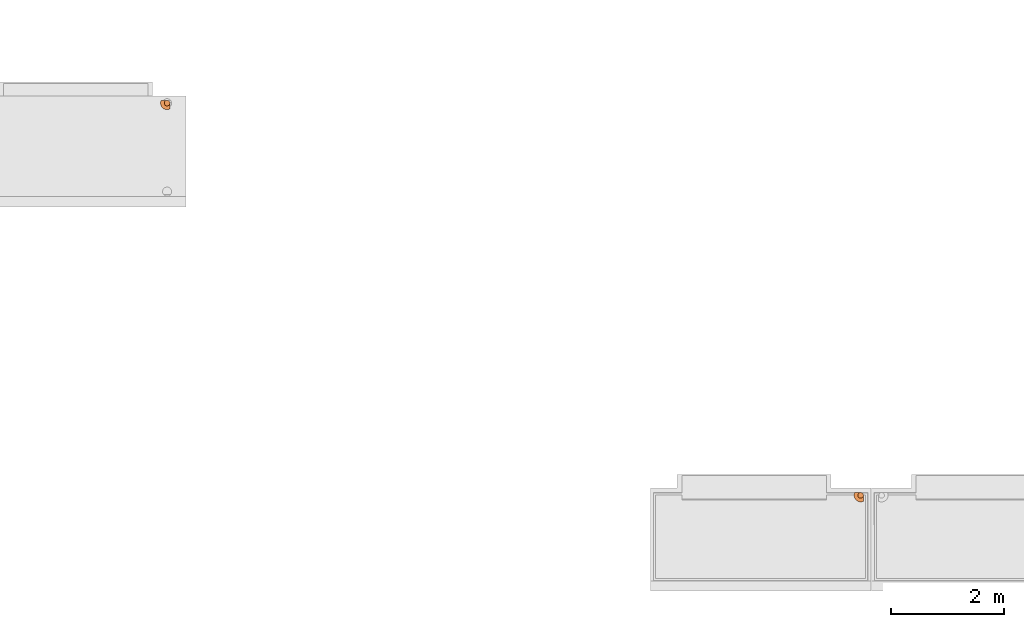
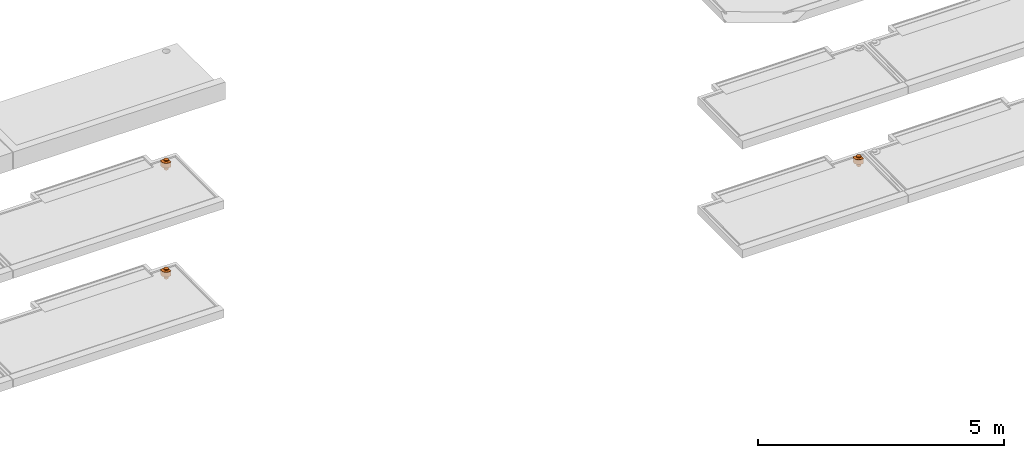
# One storey, part 24 of 31: 3 proxies, 3 elements without a shape of their own.
"""IFC2X3 building model written with IfcOpenShell, lengths in centimetres."""

import ifcopenshell
import ifcopenshell.guid

model = None  # the IFC model being written
_history = None  # IfcOwnerHistory: only IFC2X3 demands one
_inside = {}  # id of a spatial element -> (the spatial element, [elements in it])
_under = {}  # id of a project, library or spatial element -> (it, [spatial elements below it])
_declared = {}  # id of a project -> (the project, [libraries it declares])
_typed = {}  # id of a type object -> (the type object, [elements of that type])
_made_of = {}  # id of a material, layer set ... -> (it, [elements and type objects made of it])


def new_model(schema):
    """Start an empty IFC model of exactly this schema.

    Asked for "IFC4X3", IfcOpenShell would pick the latest addendum, in which some entities
    have other attributes; the version numbers below select the first issue.
    IFC2X3 requires an IfcOwnerHistory on every rooted entity: one is made here for all.
    """
    global model, _history
    if schema == "IFC4X3":
        model = ifcopenshell.file(schema_version=(4, 3, 0, 0))
    else:
        model = ifcopenshell.file(schema=schema)
    _inside.clear()
    _under.clear()
    _declared.clear()
    _typed.clear()
    _made_of.clear()
    _history = None
    if model.schema == "IFC2X3":
        org = make("IfcOrganization", Name="unknown")
        user = make(
            "IfcPersonAndOrganization",
            ThePerson=make("IfcPerson", FamilyName="unknown"),
            TheOrganization=org,
        )
        app = make(
            "IfcApplication",
            ApplicationDeveloper=org,
            Version="unknown",
            ApplicationFullName="unknown",
            ApplicationIdentifier="unknown",
        )
        _history = make(
            "IfcOwnerHistory",
            OwningUser=user,
            OwningApplication=app,
            ChangeAction="ADDED",
            CreationDate=0,
        )
    return model


def make(cls, **values):
    """One entity of the class cls with the attributes given. An attribute that is None is left unset."""
    return model.create_entity(
        cls, **{name: value for name, value in values.items() if value is not None}
    )


def entity(cls, *values):
    """Any entity or typed value of the class cls, its attributes in the order of the schema. None: left unset."""
    e = model.create_entity(cls)
    for i, value in enumerate(values):
        if value is not None:
            e[i] = value
    return e


def rooted(cls, **values):
    """An entity with a GlobalId (a new one), such as an element, a storey or a relation."""
    return make(cls, GlobalId=ifcopenshell.guid.new(), OwnerHistory=_history, **values)


def si_unit(unit_type, name, prefix=None):
    """IfcSIUnit, for example si_unit("LENGTHUNIT", "METRE", prefix="MILLI")."""
    return make("IfcSIUnit", UnitType=unit_type, Prefix=prefix, Name=name)


def converted_unit(unit_type, name, factor, base, dimensions=None, offset=None):
    """IfcConversionBasedUnit, such as the inch: factor (a typed value) times the base unit."""
    return make(
        "IfcConversionBasedUnit"
        if offset is None
        else "IfcConversionBasedUnitWithOffset",
        ConversionOffset=offset,
        Dimensions=None
        if dimensions is None
        else entity("IfcDimensionalExponents", *dimensions),
        UnitType=unit_type,
        Name=name,
        ConversionFactor=make(
            "IfcMeasureWithUnit", ValueComponent=factor, UnitComponent=base
        ),
    )


def derived_unit(unit_type, elements):
    """IfcDerivedUnit: a product of units, each with its exponent."""
    return make(
        "IfcDerivedUnit",
        Elements=[
            make("IfcDerivedUnitElement", Unit=unit, Exponent=power)
            for unit, power in elements
        ],
        UnitType=unit_type,
    )


def assignment(units):
    """IfcUnitAssignment: the units of a project."""
    return None if units is None else make("IfcUnitAssignment", Units=units)


def point(xyz):
    """IfcCartesianPoint."""
    return None if xyz is None else make("IfcCartesianPoint", Coordinates=xyz)


def direction(xyz):
    """IfcDirection."""
    return None if xyz is None else make("IfcDirection", DirectionRatios=xyz)


def frame(location, z_axis=None, x_axis=None):
    """IfcAxis2Placement3D, a coordinate frame: its origin and axes. An axis left out is left unset."""
    return make(
        "IfcAxis2Placement3D",
        Location=point(location),
        Axis=direction(z_axis),
        RefDirection=direction(x_axis),
    )


def origin():
    """The frame at (0, 0, 0) with its axes left unset."""
    return frame((0.0, 0.0, 0.0))


def place(relative_to, where):
    """IfcLocalPlacement: puts the frame where relative to a parent placement (None: the world)."""
    return make(
        "IfcLocalPlacement", PlacementRelTo=relative_to, RelativePlacement=where
    )


def context(
    kind, dimensions, precision=None, world=None, true_north=None, identifier=None
):
    """IfcGeometricRepresentationContext, for example the 3D "Model" context."""
    return make(
        "IfcGeometricRepresentationContext",
        ContextIdentifier=identifier,
        ContextType=kind,
        CoordinateSpaceDimension=dimensions,
        Precision=precision,
        WorldCoordinateSystem=world,
        TrueNorth=true_north,
    )


def subcontext(parent, identifier, kind, view, scale=None):
    """IfcGeometricRepresentationSubContext, for example "Body" below "Model"."""
    return make(
        "IfcGeometricRepresentationSubContext",
        ContextIdentifier=identifier,
        ContextType=kind,
        ParentContext=parent,
        TargetScale=scale,
        TargetView=view,
    )


def project(units=None, contexts=None):
    """IfcProject with its units and contexts."""
    return rooted(
        "IfcProject",
        Name="project",
        RepresentationContexts=contexts,
        UnitsInContext=assignment(units),
    )


def spatial(cls, under=None, at=None, **own):
    """A site, building, storey or space (cls), placed at a placement, below another one or the project."""
    s = rooted(cls, ObjectPlacement=at, **own)
    if under is not None:
        _under.setdefault(under.id(), (under, []))[1].append(s)
    return s


def faces_of(points, faces, orient=None, outer=None):
    """IfcFace entities. A face is a list of loops; a loop is a list of indices into points, from 0.

    orient and outer hold one flag for each loop. By default every Orientation is true, the
    first loop of a face is its IfcFaceOuterBound and the others are IfcFaceBound.
    """
    made = []
    for i, loops in enumerate(faces):
        bounds = []
        for j, loop in enumerate(loops):
            is_outer = j == 0 if outer is None else outer[i][j]
            bounds.append(
                make(
                    "IfcFaceOuterBound" if is_outer else "IfcFaceBound",
                    Bound=make("IfcPolyLoop", Polygon=[points[k] for k in loop]),
                    Orientation=True if orient is None else orient[i][j],
                )
            )
        made.append(make("IfcFace", Bounds=bounds))
    return made


def faceted_brep(points, faces, orient=None, outer=None, voids=None):
    """IfcFacetedBrep: a solid bounded by flat faces; with voids (closed shells), ...WithVoids."""
    shared = [point(p) for p in points]
    hull = make("IfcClosedShell", CfsFaces=faces_of(shared, faces, orient, outer))
    if voids is None:
        return make("IfcFacetedBrep", Outer=hull)
    return make(
        "IfcFacetedBrepWithVoids",
        Outer=hull,
        Voids=[
            make(cls, CfsFaces=faces_of(shared, fs, o, b)) for cls, fs, o, b in voids
        ],
    )


def shape(context_of_items, identifier, shape_type, items):
    """IfcShapeRepresentation: the items that make up one representation, for example the "Body"."""
    return make(
        "IfcShapeRepresentation",
        ContextOfItems=context_of_items,
        RepresentationIdentifier=identifier,
        RepresentationType=shape_type,
        Items=items,
    )


def source(mapping_origin, context_of_items, identifier, shape_type, items):
    """IfcRepresentationMap: a shape defined once, which mapped items show again and again."""
    return make(
        "IfcRepresentationMap",
        MappingOrigin=mapping_origin,
        MappedRepresentation=shape(context_of_items, identifier, shape_type, items),
    )


def transform(
    local_origin,
    x_axis=None,
    y_axis=None,
    z_axis=None,
    scale=None,
    scale2=None,
    scale3=None,
    uniform=True,
):
    """IfcCartesianTransformationOperator3D, or its non-uniform kind. x_axis, y_axis, z_axis: its Axis1, 2, 3."""
    if uniform:
        return make(
            "IfcCartesianTransformationOperator3D",
            Axis1=direction(x_axis),
            Axis2=direction(y_axis),
            LocalOrigin=point(local_origin),
            Scale=scale,
            Axis3=direction(z_axis),
        )
    return make(
        "IfcCartesianTransformationOperator3DnonUniform",
        Axis1=direction(x_axis),
        Axis2=direction(y_axis),
        LocalOrigin=point(local_origin),
        Scale=scale,
        Axis3=direction(z_axis),
        Scale2=scale2,
        Scale3=scale3,
    )


def mapped(mapping_source, mapping_target):
    """IfcMappedItem: shows the shape of a source again, moved by a transform."""
    return make(
        "IfcMappedItem", MappingSource=mapping_source, MappingTarget=mapping_target
    )


def material(Name=None, Category=None):
    """IfcMaterial."""
    return make("IfcMaterial", Name=Name, Category=Category)


def made_of(thing, what):
    """Note that an element or type object is made of a material, layer set ...; save() writes the relation."""
    if what is not None:
        _made_of.setdefault(what.id(), (what, []))[1].append(thing)
    return thing


def type_object(cls, material=None, **own):
    """A type object (cls), such as IfcWallType, which elements share."""
    return made_of(rooted(cls, **own), material)


def type_shapes(of_type, sources):
    """Give a type object the sources (RepresentationMaps) that its elements show as mapped items."""
    of_type.RepresentationMaps = sources


def element(
    cls,
    number,
    at=None,
    inside=None,
    cuts=None,
    type_object=None,
    material=None,
    context=None,
    identifier="Body",
    shape_type=None,
    held_by="IfcProductDefinitionShape",
    body=None,
    shapes=None,
    **own,
):
    """One element of the class cls, such as IfcWall. Its Tag is "e" and its number.

    at: its placement. inside: the storey or other place that contains it. cuts: it is an
    opening in that element (IfcRelVoidsElement). A single representation is given by context,
    identifier, shape_type and body (its items); several are given by shapes. held_by: the class
    of the entity that holds the representations. save() writes the other relations.
    """
    e = rooted(cls, Tag="e%d" % number, ObjectPlacement=at, **own)
    if body is not None:
        shapes = [shape(context, identifier, shape_type, body)]
    if shapes is not None:
        e.Representation = make(held_by, Representations=shapes)
    if inside is not None:
        _inside.setdefault(inside.id(), (inside, []))[1].append(e)
    if cuts is not None:
        rooted(
            "IfcRelVoidsElement", RelatingBuildingElement=cuts, RelatedOpeningElement=e
        )
    if type_object is not None:
        _typed.setdefault(type_object.id(), (type_object, []))[1].append(e)
    return made_of(e, material)


def aggregate(whole, parts):
    """IfcRelAggregates: a whole, such as a stair, and the parts it consists of."""
    return rooted("IfcRelAggregates", RelatingObject=whole, RelatedObjects=parts)


def save(model, path):
    """Write the relations noted so far, then the file.

    IfcRelAggregates (storeys below a building ...), IfcRelContainedInSpatialStructure (elements
    in a storey), IfcRelDefinesByType, IfcRelAssociatesMaterial and IfcRelDeclares: one each for
    every whole, place, type object, material and project.
    """
    for whole, parts in _under.values():
        aggregate(whole, parts)
    for where, things in _inside.values():
        rooted(
            "IfcRelContainedInSpatialStructure",
            RelatedElements=things,
            RelatingStructure=where,
        )
    for kind, things in _typed.values():
        rooted("IfcRelDefinesByType", RelatedObjects=things, RelatingType=kind)
    for what, things in _made_of.values():
        rooted("IfcRelAssociatesMaterial", RelatedObjects=things, RelatingMaterial=what)
    for by, libraries in _declared.values():
        rooted("IfcRelDeclares", RelatingContext=by, RelatedDefinitions=libraries)
    model.write(path)


model = new_model("IFC2X3")

# Units and contexts
model_context = context("Model", 3, precision=0.001, world=origin(), true_north=direction((6.12303176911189e-17, 1.0)))
body_context = subcontext(model_context, "Body", "Model", "MODEL_VIEW")
ifc_project = project(units=[si_unit("LENGTHUNIT", "METRE", prefix="CENTI"), si_unit("AREAUNIT", "SQUARE_METRE"), si_unit("VOLUMEUNIT", "CUBIC_METRE"), converted_unit("PLANEANGLEUNIT", "DEGREE", entity("IfcRatioMeasure", 0.0174532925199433), si_unit("PLANEANGLEUNIT", "RADIAN"), dimensions=[0, 0, 0, 0, 0, 0, 0]), si_unit("MASSUNIT", "GRAM", prefix="KILO"), derived_unit("MASSDENSITYUNIT", [(si_unit("MASSUNIT", "GRAM", prefix="KILO"), 1), (si_unit("LENGTHUNIT", "METRE"), -3)]), si_unit("TIMEUNIT", "SECOND"), si_unit("FREQUENCYUNIT", "HERTZ"), si_unit("THERMODYNAMICTEMPERATUREUNIT", "DEGREE_CELSIUS"), derived_unit("THERMALTRANSMITTANCEUNIT", [(si_unit("MASSUNIT", "GRAM", prefix="KILO"), 1), (si_unit("THERMODYNAMICTEMPERATUREUNIT", "KELVIN"), -1), (si_unit("TIMEUNIT", "SECOND"), -3)]), derived_unit("VOLUMETRICFLOWRATEUNIT", [(si_unit("LENGTHUNIT", "METRE"), 3), (si_unit("TIMEUNIT", "SECOND"), -1)]), si_unit("ELECTRICCURRENTUNIT", "AMPERE"), si_unit("ELECTRICVOLTAGEUNIT", "VOLT"), si_unit("POWERUNIT", "WATT"), si_unit("FORCEUNIT", "NEWTON"), si_unit("ILLUMINANCEUNIT", "LUX"), si_unit("LUMINOUSFLUXUNIT", "LUMEN"), si_unit("LUMINOUSINTENSITYUNIT", "CANDELA"), derived_unit("USERDEFINED", [(si_unit("MASSUNIT", "GRAM", prefix="KILO"), -1), (si_unit("LENGTHUNIT", "METRE"), -2), (si_unit("TIMEUNIT", "SECOND"), 3), (si_unit("LUMINOUSFLUXUNIT", "LUMEN"), 1)]), derived_unit("LINEARVELOCITYUNIT", [(si_unit("LENGTHUNIT", "METRE"), 1), (si_unit("TIMEUNIT", "SECOND"), -1)]), si_unit("PRESSUREUNIT", "PASCAL"), derived_unit("USERDEFINED", [(si_unit("LENGTHUNIT", "METRE"), -2), (si_unit("MASSUNIT", "GRAM", prefix="KILO"), 1), (si_unit("TIMEUNIT", "SECOND"), -2)])], contexts=[model_context])

# Site, building, storey
site_placement = place(None, origin())
site = spatial("IfcSite", under=ifc_project, at=site_placement, Name="Default", CompositionType="ELEMENT")
building_placement = place(site_placement, origin())
building = spatial("IfcBuilding", under=site, at=building_placement, Name="CAGE 03", CompositionType="ELEMENT")
storey_placement = place(building_placement, frame((0.0, 0.0, -400.0)))
storey = spatial("IfcBuildingStorey", under=building, at=storey_placement, Name="±0.00", CompositionType="ELEMENT", Elevation=-400.0)

# Assembly, proxy
assembly_1_placement = place(storey_placement, origin())
assembly_1 = element("IfcElementAssembly", 1, at=assembly_1_placement, inside=storey, Name="Assemblage Modèles génériques:BALCON TYPE 02", ObjectType="Assemblage Modèles génériques:BALCON TYPE 02", AssemblyPlace="NOTDEFINED", PredefinedType="USERDEFINED")
ifc_material = material(Name="BBGO_Résa")
building_element_proxy_type_1 = type_object("IfcBuildingElementProxyType", Name="Siphon de balcon", PredefinedType="NOTDEFINED", material=ifc_material)
shared_shape_1 = source(origin(), body_context, "Body", "Brep", [
    faceted_brep([(6.68784336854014, 14.159527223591, 9.69999999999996), (6.68784336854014, 14.1595272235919, 0.0), (6.18834125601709, 12.9536224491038, 0.0), (6.18834125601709, 12.9536224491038, 9.69999999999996), (6.68784336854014, 14.1595272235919, 22.0), (6.18834125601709, 12.9536224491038, 22.0), (6.18834125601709, 12.9536224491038, 24.0), (6.68784336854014, 14.1595272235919, 24.0), (6.01797038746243, 11.6595272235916, 0.0), (6.01797038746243, 11.6595272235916, 9.69999999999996), (6.01797038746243, 11.6595272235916, 22.0), (6.01797038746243, 11.6595272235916, 24.0), (6.18834125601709, 10.3654319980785, 9.69999999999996), (6.18834125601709, 10.3654319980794, 0.0), (6.68784336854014, 9.15952722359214, 0.0), (6.68784336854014, 9.15952722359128, 9.69999999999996), (6.18834125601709, 10.3654319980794, 22.0), (6.68784336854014, 9.15952722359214, 22.0), (6.68784336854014, 9.15952722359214, 24.0), (6.18834125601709, 10.3654319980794, 24.0), (7.48243648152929, 8.12399331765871, 0.0), (7.48243648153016, 8.12399331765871, 9.69999999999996), (7.48243648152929, 8.12399331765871, 24.0), (7.48243648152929, 8.12399331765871, 22.0), (7.48243648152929, 15.1950611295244, 9.69999999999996), (7.48243648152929, 15.1950611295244, 0.0), (7.48243648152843, 15.1950611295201, 22.0), (7.48243648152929, 15.1950611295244, 24.0), (8.51797038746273, 7.32940020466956, 9.69999999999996), (8.51797038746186, 7.32940020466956, 0.0), (9.72387516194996, 6.82989809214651, 0.0), (9.72387516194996, 6.82989809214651, 9.69999999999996), (8.51797038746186, 7.32940020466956, 22.0), (9.72387516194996, 6.82989809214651, 22.0), (9.72387516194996, 6.82989809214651, 24.0), (8.51797038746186, 7.32940020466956, 24.0), (11.0179703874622, 6.65952722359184, 0.0), (11.0179703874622, 6.65952722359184, 9.69999999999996), (11.0179703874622, 6.65952722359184, 22.0), (11.0179703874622, 6.65952722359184, 24.0), (12.3120656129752, 6.82989809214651, 9.69999999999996), (12.3120656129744, 6.82989809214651, 0.0), (13.5179703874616, 7.32940020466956, 0.0), (13.5179703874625, 7.32940020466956, 9.69999999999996), (12.3120656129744, 6.82989809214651, 22.0), (13.5179703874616, 7.32940020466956, 22.0), (13.5179703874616, 7.32940020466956, 24.0), (12.3120656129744, 6.82989809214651, 24.0), (14.553504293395, 8.12399331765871, 0.0), (14.553504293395, 8.12399331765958, 9.69999999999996), (14.553504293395, 8.12399331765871, 22.0), (14.553504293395, 8.12399331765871, 24.0), (15.3480974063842, 14.1595272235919, 22.0), (15.8475995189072, 12.9536224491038, 22.0), (16.0179703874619, 11.6595272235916, 22.0), (15.8475995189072, 10.3654319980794, 22.0), (15.3480974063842, 9.15952722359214, 22.0), (0.15952722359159, 7.87215187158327, 22.0), (1.41532336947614, 5.33187598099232, 22.0), (3.25417812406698, 3.17580577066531, 22.0), (5.56443893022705, 1.5348546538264, 22.0), (8.20583014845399, 0.508658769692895, 22.0), (11.017970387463, 0.15952722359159, 22.0), (13.8301106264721, 0.508658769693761, 22.0), (16.4715018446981, 1.53485465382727, 22.0), (18.7817626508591, 3.17580577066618, 22.0), (20.620617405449, 5.33187598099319, 22.0), (21.8764135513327, 7.872151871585, 22.0), (14.553504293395, 15.1950611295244, 22.0), (15.3480974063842, 9.15952722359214, 9.69999999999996), (15.8475995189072, 10.3654319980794, 9.69999999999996), (16.0179703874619, 11.6595272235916, 9.69999999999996), (15.8475995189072, 12.9536224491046, 9.69999999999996), (15.3480974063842, 14.1595272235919, 9.69999999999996), (14.553504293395, 15.1950611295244, 9.69999999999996), (21.8764135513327, 7.872151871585, 9.69999999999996), (20.620617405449, 5.33187598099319, 9.69999999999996), (18.7817626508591, 3.17580577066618, 9.69999999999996), (16.4715018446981, 1.53485465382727, 9.69999999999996), (13.8301106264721, 0.508658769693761, 9.69999999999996), (11.017970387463, 0.15952722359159, 9.69999999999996), (8.20583014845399, 0.508658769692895, 9.69999999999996), (5.56443893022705, 1.5348546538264, 9.69999999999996), (3.25417812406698, 3.17580577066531, 9.69999999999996), (1.41532336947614, 5.33187598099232, 9.69999999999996), (0.15952722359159, 7.87215187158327, 9.69999999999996), (0.15952722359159, 7.87215187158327, 21.5299497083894), (21.8764135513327, 7.872151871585, 21.3763717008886), (15.3480974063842, 9.15952722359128, 24.0), (15.8475995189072, 10.3654319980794, 24.0), (16.0179703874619, 11.6595272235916, 24.0), (15.8475995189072, 12.9536224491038, 24.0), (15.3480974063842, 14.159527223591, 24.0), (14.553504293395, 15.1950611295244, 24.0), (13.5179703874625, 15.9896542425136, 24.0), (12.3120656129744, 16.4891563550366, 24.0), (11.0179703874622, 16.6595272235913, 24.0), (9.72387516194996, 16.4891563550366, 24.0), (8.51797038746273, 15.9896542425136, 24.0), (15.8475995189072, 10.3654319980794, 0.0), (15.3480974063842, 9.15952722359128, 0.0), (8.51797038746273, 15.9896542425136, 0.0), (9.72387516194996, 16.4891563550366, 0.0), (11.0179703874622, 16.6595272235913, 0.0), (12.3120656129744, 16.4891563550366, 0.0), (13.5179703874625, 15.9896542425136, 0.0), (14.553504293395, 15.1950611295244, 0.0), (15.3480974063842, 14.159527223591, 0.0), (15.8475995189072, 12.9536224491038, 0.0), (16.0179703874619, 11.6595272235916, 0.0)], [[[0, 1, 2, 3]], [[4, 5, 6, 7]], [[8, 9, 3, 2]], [[5, 10, 11, 6]], [[12, 13, 14, 15]], [[16, 17, 18, 19]], [[8, 13, 12, 9]], [[10, 16, 19, 11]], [[15, 14, 20, 21]], [[22, 18, 17, 23]], [[1, 0, 24, 25]], [[26, 4, 7, 27]], [[28, 29, 30, 31]], [[32, 33, 34, 35]], [[36, 37, 31, 30]], [[33, 38, 39, 34]], [[40, 41, 42, 43]], [[44, 45, 46, 47]], [[36, 41, 40, 37]], [[38, 44, 47, 39]], [[43, 42, 48, 49]], [[45, 50, 51, 46]], [[29, 28, 21, 20]], [[32, 35, 22, 23]], [[52, 53, 54, 55, 56, 50, 45, 44, 38, 33, 32, 23, 17, 16, 10, 5, 4, 26, 57, 58, 59, 60, 61, 62, 63, 64, 65, 66, 67, 68]], [[21, 28, 31, 37, 40, 43, 49, 69, 70, 71, 72, 73, 74, 75, 76, 77, 78, 79, 80, 81, 82, 83, 84, 85, 24, 0, 3, 9, 12, 15]], [[57, 26, 24, 85, 86]], [[86, 85, 84, 58, 57]], [[83, 59, 58, 84]], [[60, 82, 81, 61]], [[83, 82, 60, 59]], [[61, 81, 80, 62]], [[78, 64, 63, 79]], [[77, 65, 64, 78]], [[76, 75, 87, 67, 66]], [[77, 76, 66, 65]], [[79, 63, 62, 80]], [[68, 67, 87, 75, 74]], [[18, 22, 35, 34, 39, 47, 46, 51, 88, 89, 90, 91, 92, 93, 94, 95, 96, 97, 98, 27, 7, 6, 11, 19]], [[99, 100, 48, 42, 41, 36, 30, 29, 20, 14, 13, 8, 2, 1, 25, 101, 102, 103, 104, 105, 106, 107, 108, 109]], [[48, 100, 69, 49]], [[51, 50, 56, 88]], [[99, 70, 69, 100]], [[56, 55, 89, 88]], [[109, 108, 72, 71]], [[54, 53, 91, 90]], [[109, 71, 70, 99]], [[54, 90, 89, 55]], [[108, 107, 73, 72]], [[91, 53, 52, 92]], [[74, 106, 105, 94, 93, 68]], [[107, 106, 74, 73]], [[52, 68, 93, 92]], [[94, 105, 104, 95]], [[101, 25, 24, 26, 27, 98]], [[96, 103, 102, 97]], [[101, 98, 97, 102]], [[95, 104, 103, 96]]]),
])
type_shapes(building_element_proxy_type_1, [shared_shape_1])
proxy_1_placement = place(assembly_1_placement, frame((5823.33040780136, 4657.20701688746, 988.0), z_axis=(0.0, 0.0, 1.0), x_axis=(0.707106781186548, -0.707106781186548, 0.0)))
proxy_1 = element("IfcBuildingElementProxy", 2, at=proxy_1_placement, type_object=building_element_proxy_type_1, material=ifc_material, Name="Siphon de balcon1:Siphon de balcon", ObjectType="Siphon de balcon", context=body_context, shape_type="MappedRepresentation", body=[
    mapped(shared_shape_1, transform((0.0, 0.0, 0.0), scale=1.0)),
])
aggregate(assembly_1, [proxy_1])

assembly_2_placement = place(storey_placement, origin())
assembly_2 = element("IfcElementAssembly", 3, at=assembly_2_placement, inside=storey, Name="Assemblage Modèles génériques:BALCON TYPE 03", ObjectType="Assemblage Modèles génériques:BALCON TYPE 03", AssemblyPlace="NOTDEFINED", PredefinedType="USERDEFINED")
building_element_proxy_type_2 = type_object("IfcBuildingElementProxyType", Name="Siphon de balcon", PredefinedType="NOTDEFINED", material=ifc_material)
shared_shape_2 = source(origin(), body_context, "Body", "Brep", [
    faceted_brep([(6.68784336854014, 14.159527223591, 9.69999999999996), (6.68784336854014, 14.1595272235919, 0.0), (6.18834125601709, 12.9536224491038, 0.0), (6.18834125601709, 12.9536224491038, 9.69999999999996), (6.68784336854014, 14.1595272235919, 22.0), (6.18834125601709, 12.9536224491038, 22.0), (6.18834125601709, 12.9536224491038, 24.0), (6.68784336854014, 14.1595272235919, 24.0), (6.01797038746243, 11.6595272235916, 0.0), (6.01797038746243, 11.6595272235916, 9.69999999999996), (6.01797038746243, 11.6595272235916, 22.0), (6.01797038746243, 11.6595272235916, 24.0), (6.18834125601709, 10.3654319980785, 9.69999999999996), (6.18834125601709, 10.3654319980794, 0.0), (6.68784336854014, 9.15952722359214, 0.0), (6.68784336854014, 9.15952722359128, 9.69999999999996), (6.18834125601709, 10.3654319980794, 22.0), (6.68784336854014, 9.15952722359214, 22.0), (6.68784336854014, 9.15952722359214, 24.0), (6.18834125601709, 10.3654319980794, 24.0), (7.48243648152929, 8.12399331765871, 0.0), (7.48243648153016, 8.12399331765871, 9.69999999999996), (7.48243648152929, 8.12399331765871, 24.0), (7.48243648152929, 8.12399331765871, 22.0), (7.48243648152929, 15.1950611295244, 9.69999999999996), (7.48243648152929, 15.1950611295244, 0.0), (7.48243648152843, 15.1950611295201, 22.0), (7.48243648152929, 15.1950611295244, 24.0), (8.51797038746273, 7.32940020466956, 9.69999999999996), (8.51797038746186, 7.32940020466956, 0.0), (9.72387516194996, 6.82989809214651, 0.0), (9.72387516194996, 6.82989809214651, 9.69999999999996), (8.51797038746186, 7.32940020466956, 22.0), (9.72387516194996, 6.82989809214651, 22.0), (9.72387516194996, 6.82989809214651, 24.0), (8.51797038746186, 7.32940020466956, 24.0), (11.0179703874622, 6.65952722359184, 0.0), (11.0179703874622, 6.65952722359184, 9.69999999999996), (11.0179703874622, 6.65952722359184, 22.0), (11.0179703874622, 6.65952722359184, 24.0), (12.3120656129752, 6.82989809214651, 9.69999999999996), (12.3120656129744, 6.82989809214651, 0.0), (13.5179703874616, 7.32940020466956, 0.0), (13.5179703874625, 7.32940020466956, 9.69999999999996), (12.3120656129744, 6.82989809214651, 22.0), (13.5179703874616, 7.32940020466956, 22.0), (13.5179703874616, 7.32940020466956, 24.0), (12.3120656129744, 6.82989809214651, 24.0), (14.553504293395, 8.12399331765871, 0.0), (14.553504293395, 8.12399331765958, 9.69999999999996), (14.553504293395, 8.12399331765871, 22.0), (14.553504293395, 8.12399331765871, 24.0), (15.3480974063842, 14.1595272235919, 22.0), (15.8475995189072, 12.9536224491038, 22.0), (16.0179703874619, 11.6595272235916, 22.0), (15.8475995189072, 10.3654319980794, 22.0), (15.3480974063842, 9.15952722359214, 22.0), (0.15952722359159, 7.87215187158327, 22.0), (1.41532336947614, 5.33187598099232, 22.0), (3.25417812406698, 3.17580577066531, 22.0), (5.56443893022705, 1.5348546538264, 22.0), (8.20583014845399, 0.508658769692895, 22.0), (11.017970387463, 0.15952722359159, 22.0), (13.8301106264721, 0.508658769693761, 22.0), (16.4715018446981, 1.53485465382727, 22.0), (18.7817626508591, 3.17580577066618, 22.0), (20.620617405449, 5.33187598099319, 22.0), (21.8764135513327, 7.872151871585, 22.0), (14.553504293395, 15.1950611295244, 22.0), (15.3480974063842, 9.15952722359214, 9.69999999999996), (15.8475995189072, 10.3654319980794, 9.69999999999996), (16.0179703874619, 11.6595272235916, 9.69999999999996), (15.8475995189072, 12.9536224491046, 9.69999999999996), (15.3480974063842, 14.1595272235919, 9.69999999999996), (14.553504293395, 15.1950611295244, 9.69999999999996), (21.8764135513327, 7.872151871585, 9.69999999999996), (20.620617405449, 5.33187598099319, 9.69999999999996), (18.7817626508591, 3.17580577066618, 9.69999999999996), (16.4715018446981, 1.53485465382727, 9.69999999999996), (13.8301106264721, 0.508658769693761, 9.69999999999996), (11.017970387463, 0.15952722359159, 9.69999999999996), (8.20583014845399, 0.508658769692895, 9.69999999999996), (5.56443893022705, 1.5348546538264, 9.69999999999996), (3.25417812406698, 3.17580577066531, 9.69999999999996), (1.41532336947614, 5.33187598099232, 9.69999999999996), (0.15952722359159, 7.87215187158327, 9.69999999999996), (0.15952722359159, 7.87215187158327, 21.5299497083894), (21.8764135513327, 7.872151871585, 21.3763717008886), (15.3480974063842, 9.15952722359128, 24.0), (15.8475995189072, 10.3654319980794, 24.0), (16.0179703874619, 11.6595272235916, 24.0), (15.8475995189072, 12.9536224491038, 24.0), (15.3480974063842, 14.159527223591, 24.0), (14.553504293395, 15.1950611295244, 24.0), (13.5179703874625, 15.9896542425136, 24.0), (12.3120656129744, 16.4891563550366, 24.0), (11.0179703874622, 16.6595272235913, 24.0), (9.72387516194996, 16.4891563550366, 24.0), (8.51797038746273, 15.9896542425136, 24.0), (15.8475995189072, 10.3654319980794, 0.0), (15.3480974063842, 9.15952722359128, 0.0), (8.51797038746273, 15.9896542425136, 0.0), (9.72387516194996, 16.4891563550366, 0.0), (11.0179703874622, 16.6595272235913, 0.0), (12.3120656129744, 16.4891563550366, 0.0), (13.5179703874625, 15.9896542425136, 0.0), (14.553504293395, 15.1950611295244, 0.0), (15.3480974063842, 14.159527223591, 0.0), (15.8475995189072, 12.9536224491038, 0.0), (16.0179703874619, 11.6595272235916, 0.0)], [[[0, 1, 2, 3]], [[4, 5, 6, 7]], [[8, 9, 3, 2]], [[5, 10, 11, 6]], [[12, 13, 14, 15]], [[16, 17, 18, 19]], [[8, 13, 12, 9]], [[10, 16, 19, 11]], [[15, 14, 20, 21]], [[22, 18, 17, 23]], [[1, 0, 24, 25]], [[26, 4, 7, 27]], [[28, 29, 30, 31]], [[32, 33, 34, 35]], [[36, 37, 31, 30]], [[33, 38, 39, 34]], [[40, 41, 42, 43]], [[44, 45, 46, 47]], [[36, 41, 40, 37]], [[38, 44, 47, 39]], [[43, 42, 48, 49]], [[45, 50, 51, 46]], [[29, 28, 21, 20]], [[32, 35, 22, 23]], [[52, 53, 54, 55, 56, 50, 45, 44, 38, 33, 32, 23, 17, 16, 10, 5, 4, 26, 57, 58, 59, 60, 61, 62, 63, 64, 65, 66, 67, 68]], [[21, 28, 31, 37, 40, 43, 49, 69, 70, 71, 72, 73, 74, 75, 76, 77, 78, 79, 80, 81, 82, 83, 84, 85, 24, 0, 3, 9, 12, 15]], [[57, 26, 24, 85, 86]], [[86, 85, 84, 58, 57]], [[83, 59, 58, 84]], [[60, 82, 81, 61]], [[83, 82, 60, 59]], [[61, 81, 80, 62]], [[78, 64, 63, 79]], [[77, 65, 64, 78]], [[76, 75, 87, 67, 66]], [[77, 76, 66, 65]], [[79, 63, 62, 80]], [[68, 67, 87, 75, 74]], [[18, 22, 35, 34, 39, 47, 46, 51, 88, 89, 90, 91, 92, 93, 94, 95, 96, 97, 98, 27, 7, 6, 11, 19]], [[99, 100, 48, 42, 41, 36, 30, 29, 20, 14, 13, 8, 2, 1, 25, 101, 102, 103, 104, 105, 106, 107, 108, 109]], [[48, 100, 69, 49]], [[51, 50, 56, 88]], [[99, 70, 69, 100]], [[56, 55, 89, 88]], [[109, 108, 72, 71]], [[54, 53, 91, 90]], [[109, 71, 70, 99]], [[54, 90, 89, 55]], [[108, 107, 73, 72]], [[91, 53, 52, 92]], [[74, 106, 105, 94, 93, 68]], [[107, 106, 74, 73]], [[52, 68, 93, 92]], [[94, 105, 104, 95]], [[101, 25, 24, 26, 27, 98]], [[96, 103, 102, 97]], [[101, 98, 97, 102]], [[95, 104, 103, 96]]]),
])
type_shapes(building_element_proxy_type_2, [shared_shape_2])
proxy_2_placement = place(assembly_2_placement, frame((7046.83040780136, 3965.20701688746, 988.0), z_axis=(0.0, 0.0, 1.0), x_axis=(0.707106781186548, -0.707106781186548, 0.0)))
proxy_2 = element("IfcBuildingElementProxy", 4, at=proxy_2_placement, type_object=building_element_proxy_type_2, material=ifc_material, Name="Siphon de balcon4:Siphon de balcon", ObjectType="Siphon de balcon", context=body_context, shape_type="MappedRepresentation", body=[
    mapped(shared_shape_2, transform((0.0, 0.0, 0.0), scale=1.0)),
])
aggregate(assembly_2, [proxy_2])

assembly_3_placement = place(storey_placement, origin())
assembly_3 = element("IfcElementAssembly", 5, at=assembly_3_placement, inside=storey, Name="Assemblage Modèles génériques:BALCON TYPE 02", ObjectType="Assemblage Modèles génériques:BALCON TYPE 02", AssemblyPlace="NOTDEFINED", PredefinedType="USERDEFINED")
building_element_proxy_type_3 = type_object("IfcBuildingElementProxyType", Name="Siphon de balcon", PredefinedType="NOTDEFINED", material=ifc_material)
shared_shape_3 = source(origin(), body_context, "Body", "Brep", [
    faceted_brep([(6.68784336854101, 14.159527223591, 9.69999999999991), (6.68784336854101, 14.1595272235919, 0.0), (6.18834125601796, 12.9536224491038, 0.0), (6.18834125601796, 12.9536224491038, 9.69999999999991), (6.68784336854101, 14.1595272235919, 22.0), (6.18834125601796, 12.9536224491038, 22.0), (6.18834125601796, 12.9536224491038, 24.0), (6.68784336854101, 14.1595272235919, 24.0), (6.01797038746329, 11.6595272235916, 0.0), (6.01797038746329, 11.6595272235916, 9.69999999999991), (6.01797038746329, 11.6595272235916, 22.0), (6.01797038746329, 11.6595272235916, 24.0), (6.18834125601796, 10.3654319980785, 9.69999999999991), (6.18834125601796, 10.3654319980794, 0.0), (6.68784336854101, 9.15952722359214, 0.0), (6.68784336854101, 9.15952722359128, 9.69999999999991), (6.18834125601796, 10.3654319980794, 22.0), (6.68784336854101, 9.15952722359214, 22.0), (6.68784336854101, 9.15952722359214, 24.0), (6.18834125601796, 10.3654319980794, 24.0), (7.48243648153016, 8.12399331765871, 0.0), (7.48243648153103, 8.12399331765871, 9.69999999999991), (7.48243648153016, 8.12399331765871, 24.0), (7.48243648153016, 8.12399331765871, 22.0), (7.48243648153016, 15.1950611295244, 9.69999999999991), (7.48243648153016, 15.1950611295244, 0.0), (7.48243648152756, 15.1950611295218, 22.0), (7.48243648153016, 15.1950611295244, 24.0), (8.51797038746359, 7.32940020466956, 9.69999999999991), (8.51797038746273, 7.32940020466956, 0.0), (9.72387516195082, 6.82989809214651, 0.0), (9.72387516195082, 6.82989809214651, 9.69999999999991), (8.51797038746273, 7.32940020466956, 22.0), (9.72387516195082, 6.82989809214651, 22.0), (9.72387516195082, 6.82989809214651, 24.0), (8.51797038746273, 7.32940020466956, 24.0), (11.017970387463, 6.65952722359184, 0.0), (11.0179703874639, 6.65952722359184, 9.69999999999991), (11.017970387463, 6.65952722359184, 22.0), (11.017970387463, 6.65952722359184, 24.0), (12.3120656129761, 6.82989809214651, 9.69999999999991), (12.3120656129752, 6.82989809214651, 0.0), (13.5179703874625, 7.32940020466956, 0.0), (13.5179703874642, 7.32940020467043, 9.69999999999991), (12.3120656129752, 6.82989809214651, 22.0), (13.5179703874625, 7.32940020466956, 22.0), (13.5179703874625, 7.32940020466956, 24.0), (12.3120656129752, 6.82989809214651, 24.0), (14.5535042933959, 8.12399331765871, 0.0), (14.5535042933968, 8.12399331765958, 9.69999999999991), (14.5535042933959, 8.12399331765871, 22.0), (14.5535042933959, 8.12399331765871, 24.0), (15.348097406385, 14.1595272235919, 22.0), (15.8475995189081, 12.9536224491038, 22.0), (16.0179703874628, 11.6595272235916, 22.0), (15.8475995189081, 10.3654319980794, 22.0), (15.348097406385, 9.15952722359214, 22.0), (0.15952722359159, 7.87215187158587, 22.0), (1.41532336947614, 5.33187598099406, 22.0), (3.25417812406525, 3.17580577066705, 22.0), (5.56443893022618, 1.53485465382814, 22.0), (8.20583014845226, 0.508658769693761, 22.0), (11.0179703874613, 0.15952722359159, 22.0), (13.8301106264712, 0.508658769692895, 22.0), (16.4715018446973, 1.5348546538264, 22.0), (18.7817626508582, 3.17580577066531, 22.0), (20.620617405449, 5.33187598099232, 22.0), (21.8764135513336, 7.87215187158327, 22.0), (14.5535042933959, 15.1950611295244, 22.0), (15.348097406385, 9.15952722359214, 9.69999999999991), (15.8475995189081, 10.3654319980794, 9.69999999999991), (16.0179703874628, 11.6595272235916, 9.69999999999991), (15.8475995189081, 12.9536224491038, 9.69999999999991), (15.348097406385, 14.159527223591, 9.69999999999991), (14.5535042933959, 15.1950611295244, 9.69999999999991), (21.8764135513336, 7.87215187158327, 9.69999999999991), (20.620617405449, 5.33187598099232, 9.69999999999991), (18.7817626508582, 3.17580577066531, 9.69999999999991), (16.4715018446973, 1.5348546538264, 9.69999999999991), (13.8301106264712, 0.508658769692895, 9.69999999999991), (11.0179703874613, 0.15952722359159, 9.69999999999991), (8.20583014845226, 0.508658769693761, 9.69999999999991), (5.56443893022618, 1.53485465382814, 9.69999999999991), (3.25417812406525, 3.17580577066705, 9.69999999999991), (1.41532336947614, 5.33187598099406, 9.69999999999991), (0.15952722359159, 7.87215187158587, 9.69999999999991), (0.15952722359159, 7.87215187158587, 21.5299497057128), (21.8764135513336, 7.87215187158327, 21.3763716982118), (15.348097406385, 9.15952722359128, 24.0), (15.8475995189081, 10.3654319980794, 24.0), (16.0179703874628, 11.6595272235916, 24.0), (15.8475995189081, 12.9536224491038, 24.0), (15.348097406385, 14.159527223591, 24.0), (14.5535042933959, 15.1950611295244, 24.0), (13.5179703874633, 15.9896542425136, 24.0), (12.3120656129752, 16.4891563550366, 24.0), (11.017970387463, 16.6595272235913, 24.0), (9.72387516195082, 16.4891563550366, 24.0), (8.51797038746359, 15.9896542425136, 24.0), (15.8475995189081, 10.3654319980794, 0.0), (15.348097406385, 9.15952722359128, 0.0), (8.51797038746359, 15.9896542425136, 0.0), (9.72387516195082, 16.4891563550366, 0.0), (11.017970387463, 16.6595272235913, 0.0), (12.3120656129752, 16.4891563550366, 0.0), (13.5179703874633, 15.9896542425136, 0.0), (14.5535042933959, 15.1950611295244, 0.0), (15.348097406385, 14.159527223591, 0.0), (15.8475995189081, 12.9536224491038, 0.0), (16.0179703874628, 11.6595272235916, 0.0)], [[[0, 1, 2, 3]], [[4, 5, 6, 7]], [[8, 9, 3, 2]], [[5, 10, 11, 6]], [[12, 13, 14, 15]], [[16, 17, 18, 19]], [[8, 13, 12, 9]], [[10, 16, 19, 11]], [[15, 14, 20, 21]], [[22, 18, 17, 23]], [[1, 0, 24, 25]], [[26, 4, 7, 27]], [[28, 29, 30, 31]], [[32, 33, 34, 35]], [[36, 37, 31, 30]], [[33, 38, 39, 34]], [[40, 41, 42, 43]], [[44, 45, 46, 47]], [[36, 41, 40, 37]], [[38, 44, 47, 39]], [[43, 42, 48, 49]], [[45, 50, 51, 46]], [[29, 28, 21, 20]], [[32, 35, 22, 23]], [[52, 53, 54, 55, 56, 50, 45, 44, 38, 33, 32, 23, 17, 16, 10, 5, 4, 26, 57, 58, 59, 60, 61, 62, 63, 64, 65, 66, 67, 68]], [[21, 28, 31, 37, 40, 43, 49, 69, 70, 71, 72, 73, 74, 75, 76, 77, 78, 79, 80, 81, 82, 83, 84, 85, 24, 0, 3, 9, 12, 15]], [[57, 26, 24, 85, 86]], [[86, 85, 84, 58, 57]], [[83, 59, 58, 84]], [[60, 82, 81, 61]], [[83, 82, 60, 59]], [[61, 81, 80, 62]], [[78, 64, 63, 79]], [[77, 65, 64, 78]], [[76, 75, 87, 67, 66]], [[77, 76, 66, 65]], [[79, 63, 62, 80]], [[68, 67, 87, 75, 74]], [[18, 22, 35, 34, 39, 47, 46, 51, 88, 89, 90, 91, 92, 93, 94, 95, 96, 97, 98, 27, 7, 6, 11, 19]], [[99, 100, 48, 42, 41, 36, 30, 29, 20, 14, 13, 8, 2, 1, 25, 101, 102, 103, 104, 105, 106, 107, 108, 109]], [[48, 100, 69, 49]], [[51, 50, 56, 88]], [[99, 70, 69, 100]], [[56, 55, 89, 88]], [[109, 108, 72, 71]], [[54, 53, 91, 90]], [[109, 71, 70, 99]], [[54, 90, 89, 55]], [[108, 107, 73, 72]], [[91, 53, 52, 92]], [[74, 106, 105, 94, 93, 68]], [[107, 106, 74, 73]], [[52, 68, 93, 92]], [[94, 105, 104, 95]], [[101, 25, 24, 26, 27, 98]], [[96, 103, 102, 97]], [[101, 98, 97, 102]], [[95, 104, 103, 96]]]),
])
type_shapes(building_element_proxy_type_3, [shared_shape_3])
proxy_3_placement = place(assembly_3_placement, frame((5823.33040780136, 4657.20701661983, 718.0), z_axis=(0.0, 0.0, 1.0), x_axis=(0.707106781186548, -0.707106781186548, 0.0)))
proxy_3 = element("IfcBuildingElementProxy", 6, at=proxy_3_placement, type_object=building_element_proxy_type_3, material=ifc_material, Name="Siphon de balcon13:Siphon de balcon", ObjectType="Siphon de balcon", context=body_context, shape_type="MappedRepresentation", body=[
    mapped(shared_shape_3, transform((0.0, 0.0, 0.0), scale=1.0)),
])
aggregate(assembly_3, [proxy_3])

save(model, "model.ifc")
